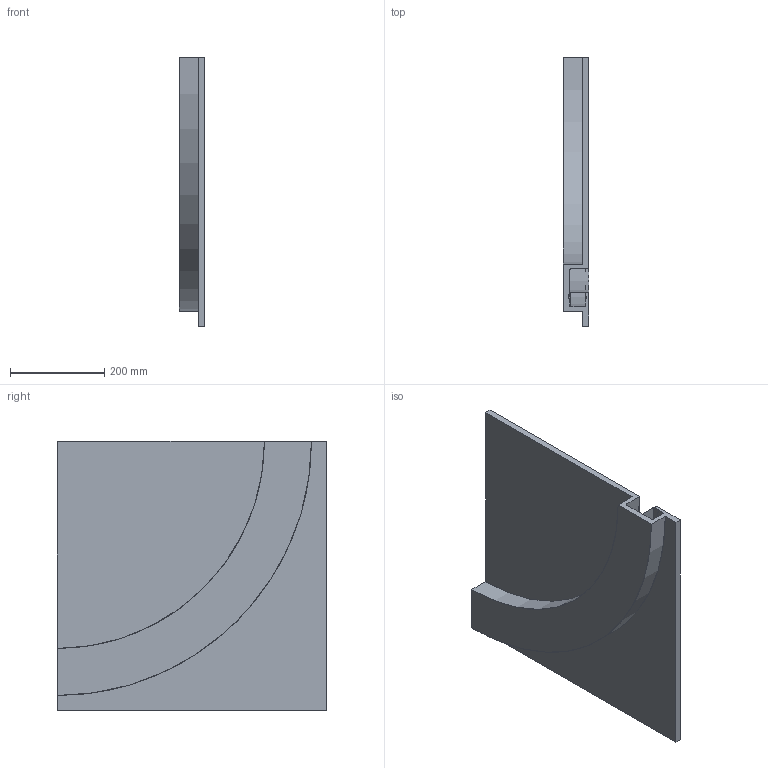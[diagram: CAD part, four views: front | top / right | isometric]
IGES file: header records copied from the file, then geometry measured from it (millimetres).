
Start section: SolidWorks IGES file using analytic representation for surfaces
Global section: file name: C:\Users\Stagiaire\Desktop\Rendu 3D\Micro BLADE turn\Micro BLADE turn out\773_Micro_BLADE_turn_out.IGS; native system: SolidWorks 2014; preprocessor: SolidWorks 2014; author: Stagiaire; date: 140915.115029; units: millimetre
Bounding box: 55 x 572 x 572 mm (x, y, z)
Surface area: 959354.6 mm2 (no closed solid volume)
Topology: 0 solids, 0 shells, 33 faces, 382 edges, 382 vertices
Faces by surface type: revolution 17, bspline 16
